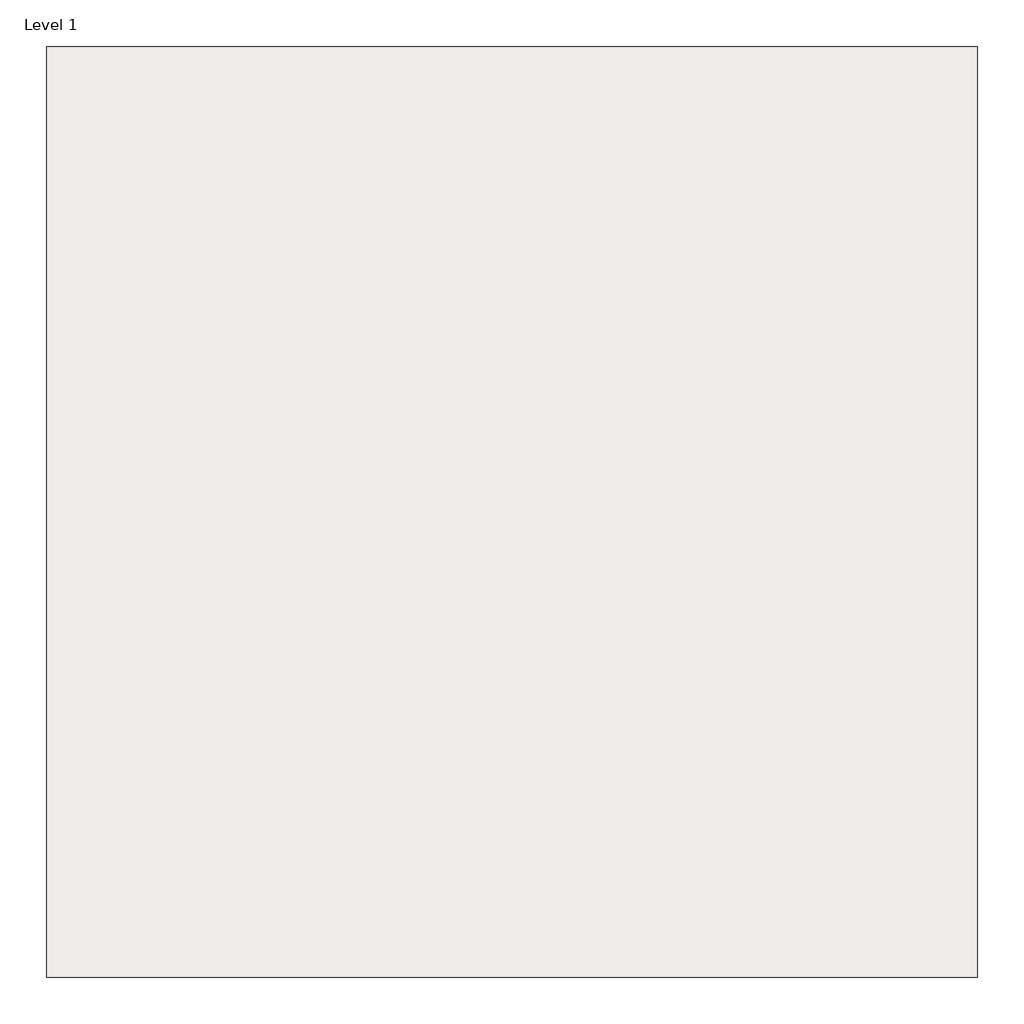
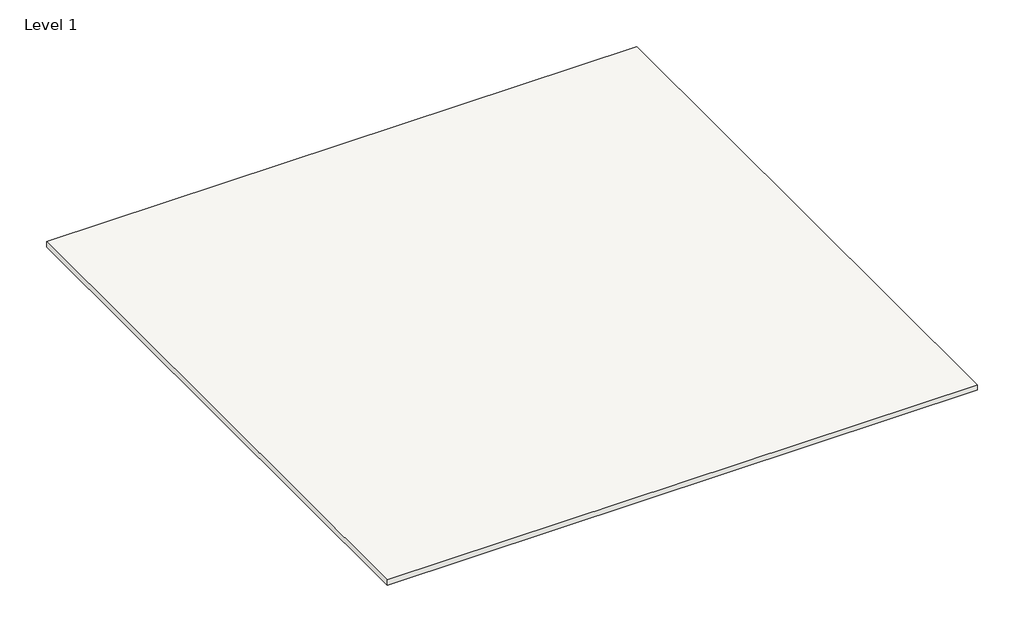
# One storey: 1 slab.
"""IFC4 building model written with IfcOpenShell, lengths in millimetres."""

import ifcopenshell
import ifcopenshell.guid

model = None  # the IFC model being written
_history = None  # IfcOwnerHistory: only IFC2X3 demands one
_inside = {}  # id of a spatial element -> (the spatial element, [elements in it])
_under = {}  # id of a project, library or spatial element -> (it, [spatial elements below it])
_declared = {}  # id of a project -> (the project, [libraries it declares])
_typed = {}  # id of a type object -> (the type object, [elements of that type])
_made_of = {}  # id of a material, layer set ... -> (it, [elements and type objects made of it])


def new_model(schema):
    """Start an empty IFC model of exactly this schema.

    Asked for "IFC4X3", IfcOpenShell would pick the latest addendum, in which some entities
    have other attributes; the version numbers below select the first issue.
    IFC2X3 requires an IfcOwnerHistory on every rooted entity: one is made here for all.
    """
    global model, _history
    if schema == "IFC4X3":
        model = ifcopenshell.file(schema_version=(4, 3, 0, 0))
    else:
        model = ifcopenshell.file(schema=schema)
    _inside.clear()
    _under.clear()
    _declared.clear()
    _typed.clear()
    _made_of.clear()
    _history = None
    if model.schema == "IFC2X3":
        org = make("IfcOrganization", Name="unknown")
        user = make(
            "IfcPersonAndOrganization",
            ThePerson=make("IfcPerson", FamilyName="unknown"),
            TheOrganization=org,
        )
        app = make(
            "IfcApplication",
            ApplicationDeveloper=org,
            Version="unknown",
            ApplicationFullName="unknown",
            ApplicationIdentifier="unknown",
        )
        _history = make(
            "IfcOwnerHistory",
            OwningUser=user,
            OwningApplication=app,
            ChangeAction="ADDED",
            CreationDate=0,
        )
    return model


def make(cls, **values):
    """One entity of the class cls with the attributes given. An attribute that is None is left unset."""
    return model.create_entity(
        cls, **{name: value for name, value in values.items() if value is not None}
    )


def rooted(cls, **values):
    """An entity with a GlobalId (a new one), such as an element, a storey or a relation."""
    return make(cls, GlobalId=ifcopenshell.guid.new(), OwnerHistory=_history, **values)


def si_unit(unit_type, name, prefix=None):
    """IfcSIUnit, for example si_unit("LENGTHUNIT", "METRE", prefix="MILLI")."""
    return make("IfcSIUnit", UnitType=unit_type, Prefix=prefix, Name=name)


def assignment(units):
    """IfcUnitAssignment: the units of a project."""
    return None if units is None else make("IfcUnitAssignment", Units=units)


def point(xyz):
    """IfcCartesianPoint."""
    return None if xyz is None else make("IfcCartesianPoint", Coordinates=xyz)


def direction(xyz):
    """IfcDirection."""
    return None if xyz is None else make("IfcDirection", DirectionRatios=xyz)


def frame(location, z_axis=None, x_axis=None):
    """IfcAxis2Placement3D, a coordinate frame: its origin and axes. An axis left out is left unset."""
    return make(
        "IfcAxis2Placement3D",
        Location=point(location),
        Axis=direction(z_axis),
        RefDirection=direction(x_axis),
    )


def origin():
    """The frame at (0, 0, 0) with its axes left unset."""
    return frame((0.0, 0.0, 0.0))


def place(relative_to, where):
    """IfcLocalPlacement: puts the frame where relative to a parent placement (None: the world)."""
    return make(
        "IfcLocalPlacement", PlacementRelTo=relative_to, RelativePlacement=where
    )


def context(
    kind, dimensions, precision=None, world=None, true_north=None, identifier=None
):
    """IfcGeometricRepresentationContext, for example the 3D "Model" context."""
    return make(
        "IfcGeometricRepresentationContext",
        ContextIdentifier=identifier,
        ContextType=kind,
        CoordinateSpaceDimension=dimensions,
        Precision=precision,
        WorldCoordinateSystem=world,
        TrueNorth=true_north,
    )


def project(units=None, contexts=None):
    """IfcProject with its units and contexts."""
    return rooted(
        "IfcProject",
        Name="project",
        RepresentationContexts=contexts,
        UnitsInContext=assignment(units),
    )


def spatial(cls, under=None, at=None, **own):
    """A site, building, storey or space (cls), placed at a placement, below another one or the project."""
    s = rooted(cls, ObjectPlacement=at, **own)
    if under is not None:
        _under.setdefault(under.id(), (under, []))[1].append(s)
    return s


def polyline(points):
    """IfcPolyline through the points."""
    return make("IfcPolyline", Points=[point(p) for p in points])


def outline(outer, holes=None, kind="AREA"):
    """IfcArbitraryClosedProfileDef: a profile drawn as a closed curve; with holes, ...WithVoids."""
    if holes is None:
        return make("IfcArbitraryClosedProfileDef", ProfileType=kind, OuterCurve=outer)
    return make(
        "IfcArbitraryProfileDefWithVoids",
        ProfileType=kind,
        OuterCurve=outer,
        InnerCurves=holes,
    )


def extrude(swept, where, along, depth):
    """IfcExtrudedAreaSolid: the profile swept, set in the frame where, extruded along a direction by depth."""
    return make(
        "IfcExtrudedAreaSolid",
        SweptArea=swept,
        Position=where,
        ExtrudedDirection=direction(along),
        Depth=depth,
    )


def shape(context_of_items, identifier, shape_type, items):
    """IfcShapeRepresentation: the items that make up one representation, for example the "Body"."""
    return make(
        "IfcShapeRepresentation",
        ContextOfItems=context_of_items,
        RepresentationIdentifier=identifier,
        RepresentationType=shape_type,
        Items=items,
    )


def made_of(thing, what):
    """Note that an element or type object is made of a material, layer set ...; save() writes the relation."""
    if what is not None:
        _made_of.setdefault(what.id(), (what, []))[1].append(thing)
    return thing


def element(
    cls,
    number,
    at=None,
    inside=None,
    cuts=None,
    type_object=None,
    material=None,
    context=None,
    identifier="Body",
    shape_type=None,
    held_by="IfcProductDefinitionShape",
    body=None,
    shapes=None,
    **own,
):
    """One element of the class cls, such as IfcWall. Its Tag is "e" and its number.

    at: its placement. inside: the storey or other place that contains it. cuts: it is an
    opening in that element (IfcRelVoidsElement). A single representation is given by context,
    identifier, shape_type and body (its items); several are given by shapes. held_by: the class
    of the entity that holds the representations. save() writes the other relations.
    """
    e = rooted(cls, Tag="e%d" % number, ObjectPlacement=at, **own)
    if body is not None:
        shapes = [shape(context, identifier, shape_type, body)]
    if shapes is not None:
        e.Representation = make(held_by, Representations=shapes)
    if inside is not None:
        _inside.setdefault(inside.id(), (inside, []))[1].append(e)
    if cuts is not None:
        rooted(
            "IfcRelVoidsElement", RelatingBuildingElement=cuts, RelatedOpeningElement=e
        )
    if type_object is not None:
        _typed.setdefault(type_object.id(), (type_object, []))[1].append(e)
    return made_of(e, material)


def aggregate(whole, parts):
    """IfcRelAggregates: a whole, such as a stair, and the parts it consists of."""
    return rooted("IfcRelAggregates", RelatingObject=whole, RelatedObjects=parts)


def save(model, path):
    """Write the relations noted so far, then the file.

    IfcRelAggregates (storeys below a building ...), IfcRelContainedInSpatialStructure (elements
    in a storey), IfcRelDefinesByType, IfcRelAssociatesMaterial and IfcRelDeclares: one each for
    every whole, place, type object, material and project.
    """
    for whole, parts in _under.values():
        aggregate(whole, parts)
    for where, things in _inside.values():
        rooted(
            "IfcRelContainedInSpatialStructure",
            RelatedElements=things,
            RelatingStructure=where,
        )
    for kind, things in _typed.values():
        rooted("IfcRelDefinesByType", RelatedObjects=things, RelatingType=kind)
    for what, things in _made_of.values():
        rooted("IfcRelAssociatesMaterial", RelatedObjects=things, RelatingMaterial=what)
    for by, libraries in _declared.values():
        rooted("IfcRelDeclares", RelatingContext=by, RelatedDefinitions=libraries)
    model.write(path)


model = new_model("IFC4")

# Units and contexts
model_context = context("Model", 3, world=origin())
ifc_project = project(units=[si_unit("LENGTHUNIT", "METRE", prefix="MILLI")], contexts=[model_context])

# Site, building, storey
site = spatial("IfcSite", under=ifc_project)
building = spatial("IfcBuilding", under=site)
storey = spatial("IfcBuildingStorey", under=building, Name="Level 1", Elevation=0.0)

# Slab
placement = place(None, origin())
element("IfcSlab", 1, ObjectType="Exterior Decking - Wood - Thermory - Herringbone Deck Module 28x812x500 - Smooth", at=placement, inside=storey, context=model_context, shape_type="SweptSolid", body=[
    extrude(outline(polyline([(-7902.6916977, -17093.8314635), (-10950.6916977, -17093.8314635), (-10950.6916977, -14045.8314635), (-7902.6916977, -14045.8314635), (-7902.6916977, -17093.8314635)])), frame((0.0, 0.0, -28.0), z_axis=(0.0, 0.0, 1.0), x_axis=(1.0, 0.0, 0.0)), (0.0, 0.0, 1.0), 28.0),
])

save(model, "model.ifc")
